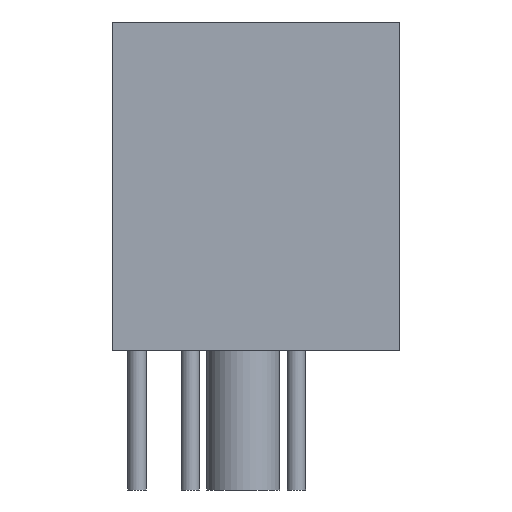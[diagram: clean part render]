
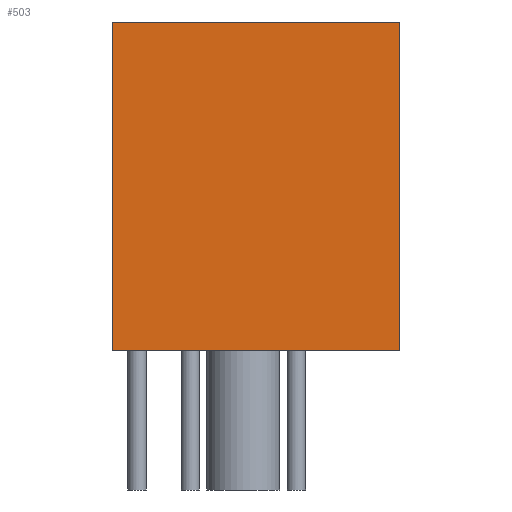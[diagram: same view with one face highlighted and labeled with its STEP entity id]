
A CAD part, left-side view. The second image highlights one B-rep face of the part: STEP entity #503.
In plain terms, the highlighted planar face has unit normal (-1, 0, 0).
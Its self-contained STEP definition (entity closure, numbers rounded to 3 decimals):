
#240 = EDGE_CURVE('',#241,#243,#245,.T.);
#241 = VERTEX_POINT('',#242);
#242 = CARTESIAN_POINT('',(-41.465,-9.41,0.));
#243 = VERTEX_POINT('',#244);
#244 = CARTESIAN_POINT('',(-41.465,-9.41,11.76));
#245 = SURFACE_CURVE('',#246,(#250,#262),.PCURVE_S1.);
#246 = LINE('',#247,#248);
#247 = CARTESIAN_POINT('',(-41.465,-9.41,0.));
#248 = VECTOR('',#249,1.);
#249 = DIRECTION('',(0.,0.,1.));
#250 = PCURVE('',#251,#256);
#251 = PLANE('',#252);
#252 = AXIS2_PLACEMENT_3D('',#253,#254,#255);
#253 = CARTESIAN_POINT('',(-41.465,-9.41,0.));
#254 = DIRECTION('',(0.,1.,0.));
#255 = DIRECTION('',(1.,0.,0.));
#256 = DEFINITIONAL_REPRESENTATION('',(#257),#261);
#257 = LINE('',#258,#259);
#258 = CARTESIAN_POINT('',(0.,0.));
#259 = VECTOR('',#260,1.);
#260 = DIRECTION('',(0.,-1.));
#261 = ( GEOMETRIC_REPRESENTATION_CONTEXT(2) 
PARAMETRIC_REPRESENTATION_CONTEXT() REPRESENTATION_CONTEXT('2D SPACE',''
  ) );
#262 = PCURVE('',#263,#268);
#263 = PLANE('',#264);
#264 = AXIS2_PLACEMENT_3D('',#265,#266,#267);
#265 = CARTESIAN_POINT('',(-41.465,0.9,0.));
#266 = DIRECTION('',(1.,0.,-0.));
#267 = DIRECTION('',(0.,-1.,0.));
#268 = DEFINITIONAL_REPRESENTATION('',(#269),#273);
#269 = LINE('',#270,#271);
#270 = CARTESIAN_POINT('',(10.31,0.));
#271 = VECTOR('',#272,1.);
#272 = DIRECTION('',(0.,-1.));
#273 = ( GEOMETRIC_REPRESENTATION_CONTEXT(2) 
PARAMETRIC_REPRESENTATION_CONTEXT() REPRESENTATION_CONTEXT('2D SPACE',''
  ) );
#291 = PLANE('',#292);
#292 = AXIS2_PLACEMENT_3D('',#293,#294,#295);
#293 = CARTESIAN_POINT('',(-15.24,-4.255,11.76));
#294 = DIRECTION('',(0.,0.,1.));
#295 = DIRECTION('',(1.,0.,0.));
#345 = PLANE('',#346);
#346 = AXIS2_PLACEMENT_3D('',#347,#348,#349);
#347 = CARTESIAN_POINT('',(-15.24,-4.255,0.));
#348 = DIRECTION('',(0.,0.,1.));
#349 = DIRECTION('',(1.,0.,0.));
#400 = PLANE('',#401);
#401 = AXIS2_PLACEMENT_3D('',#402,#403,#404);
#402 = CARTESIAN_POINT('',(10.985,0.9,0.));
#403 = DIRECTION('',(0.,-1.,0.));
#404 = DIRECTION('',(-1.,0.,0.));
#438 = VERTEX_POINT('',#439);
#439 = CARTESIAN_POINT('',(-41.465,0.9,11.76));
#460 = EDGE_CURVE('',#461,#438,#463,.T.);
#461 = VERTEX_POINT('',#462);
#462 = CARTESIAN_POINT('',(-41.465,0.9,0.));
#463 = SURFACE_CURVE('',#464,(#468,#475),.PCURVE_S1.);
#464 = LINE('',#465,#466);
#465 = CARTESIAN_POINT('',(-41.465,0.9,0.));
#466 = VECTOR('',#467,1.);
#467 = DIRECTION('',(0.,0.,1.));
#468 = PCURVE('',#400,#469);
#469 = DEFINITIONAL_REPRESENTATION('',(#470),#474);
#470 = LINE('',#471,#472);
#471 = CARTESIAN_POINT('',(52.45,0.));
#472 = VECTOR('',#473,1.);
#473 = DIRECTION('',(0.,-1.));
#474 = ( GEOMETRIC_REPRESENTATION_CONTEXT(2) 
PARAMETRIC_REPRESENTATION_CONTEXT() REPRESENTATION_CONTEXT('2D SPACE',''
  ) );
#475 = PCURVE('',#263,#476);
#476 = DEFINITIONAL_REPRESENTATION('',(#477),#481);
#477 = LINE('',#478,#479);
#478 = CARTESIAN_POINT('',(0.,0.));
#479 = VECTOR('',#480,1.);
#480 = DIRECTION('',(0.,-1.));
#481 = ( GEOMETRIC_REPRESENTATION_CONTEXT(2) 
PARAMETRIC_REPRESENTATION_CONTEXT() REPRESENTATION_CONTEXT('2D SPACE',''
  ) );
#503 = ADVANCED_FACE('',(#504),#263,.F.);
#504 = FACE_BOUND('',#505,.F.);
#505 = EDGE_LOOP('',(#506,#507,#528,#529));
#506 = ORIENTED_EDGE('',*,*,#460,.T.);
#507 = ORIENTED_EDGE('',*,*,#508,.T.);
#508 = EDGE_CURVE('',#438,#243,#509,.T.);
#509 = SURFACE_CURVE('',#510,(#514,#521),.PCURVE_S1.);
#510 = LINE('',#511,#512);
#511 = CARTESIAN_POINT('',(-41.465,0.9,11.76));
#512 = VECTOR('',#513,1.);
#513 = DIRECTION('',(0.,-1.,0.));
#514 = PCURVE('',#263,#515);
#515 = DEFINITIONAL_REPRESENTATION('',(#516),#520);
#516 = LINE('',#517,#518);
#517 = CARTESIAN_POINT('',(0.,-11.76));
#518 = VECTOR('',#519,1.);
#519 = DIRECTION('',(1.,0.));
#520 = ( GEOMETRIC_REPRESENTATION_CONTEXT(2) 
PARAMETRIC_REPRESENTATION_CONTEXT() REPRESENTATION_CONTEXT('2D SPACE',''
  ) );
#521 = PCURVE('',#291,#522);
#522 = DEFINITIONAL_REPRESENTATION('',(#523),#527);
#523 = LINE('',#524,#525);
#524 = CARTESIAN_POINT('',(-26.225,5.155));
#525 = VECTOR('',#526,1.);
#526 = DIRECTION('',(0.,-1.));
#527 = ( GEOMETRIC_REPRESENTATION_CONTEXT(2) 
PARAMETRIC_REPRESENTATION_CONTEXT() REPRESENTATION_CONTEXT('2D SPACE',''
  ) );
#528 = ORIENTED_EDGE('',*,*,#240,.F.);
#529 = ORIENTED_EDGE('',*,*,#530,.F.);
#530 = EDGE_CURVE('',#461,#241,#531,.T.);
#531 = SURFACE_CURVE('',#532,(#536,#543),.PCURVE_S1.);
#532 = LINE('',#533,#534);
#533 = CARTESIAN_POINT('',(-41.465,0.9,0.));
#534 = VECTOR('',#535,1.);
#535 = DIRECTION('',(0.,-1.,0.));
#536 = PCURVE('',#263,#537);
#537 = DEFINITIONAL_REPRESENTATION('',(#538),#542);
#538 = LINE('',#539,#540);
#539 = CARTESIAN_POINT('',(0.,0.));
#540 = VECTOR('',#541,1.);
#541 = DIRECTION('',(1.,0.));
#542 = ( GEOMETRIC_REPRESENTATION_CONTEXT(2) 
PARAMETRIC_REPRESENTATION_CONTEXT() REPRESENTATION_CONTEXT('2D SPACE',''
  ) );
#543 = PCURVE('',#345,#544);
#544 = DEFINITIONAL_REPRESENTATION('',(#545),#549);
#545 = LINE('',#546,#547);
#546 = CARTESIAN_POINT('',(-26.225,5.155));
#547 = VECTOR('',#548,1.);
#548 = DIRECTION('',(0.,-1.));
#549 = ( GEOMETRIC_REPRESENTATION_CONTEXT(2) 
PARAMETRIC_REPRESENTATION_CONTEXT() REPRESENTATION_CONTEXT('2D SPACE',''
  ) );
